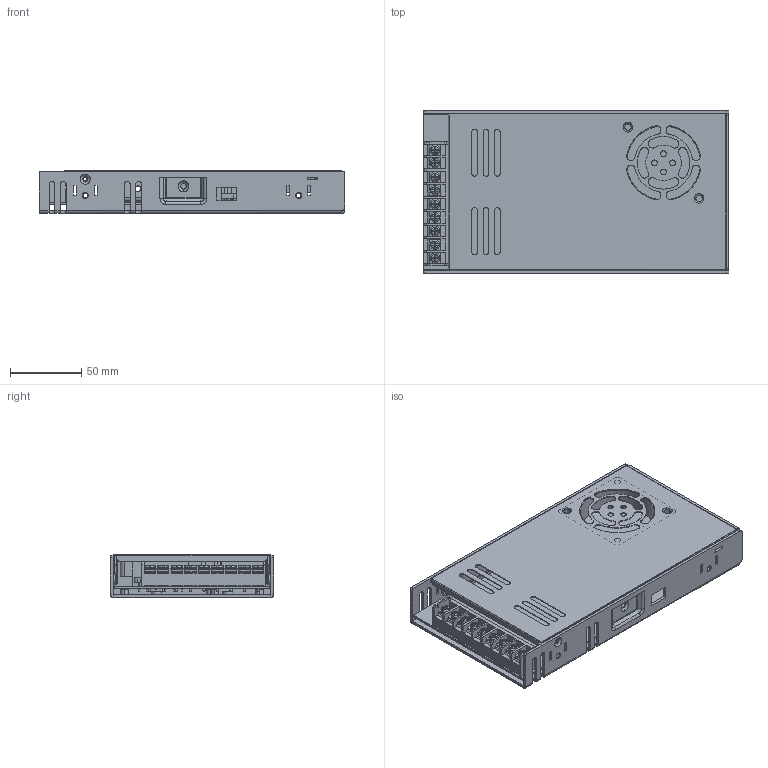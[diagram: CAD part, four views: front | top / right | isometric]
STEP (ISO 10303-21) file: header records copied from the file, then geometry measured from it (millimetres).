
FILE_DESCRIPTION(/* description */ (''),/* implementation_level */ '2;1');
FILE_NAME(/* name */ 'PB350AW',/* time_stamp */ '2025-07-31T16:00:51+08:00',/* author */ (''),/* organization */ (''),/* preprocessor_version */ 'ST-DEVELOPER v16.5',/* originating_system */ '',/* authorisation */ '');
FILE_SCHEMA (('AUTOMOTIVE_DESIGN'));
Length unit declared in the file: millimetre
Products named in the file (1): Document
Bounding box: 215 x 115 x 30 mm (x, y, z)
Volume: 195411.3 mm3; surface area: 205139.4 mm2
Topology: 38 solids, 38 shells, 1887 faces, 4574 edges, 2793 vertices
Faces by surface type: plane 1158, bspline 729
Entity records: 62880 total; most frequent: CARTESIAN_POINT 33247, ORIENTED_EDGE 9148, EDGE_CURVE 4574, B_SPLINE_CURVE_WITH_KNOTS 3098, VERTEX_POINT 2793, EDGE_LOOP 2097, ADVANCED_FACE 1887, FACE_OUTER_BOUND 1887
